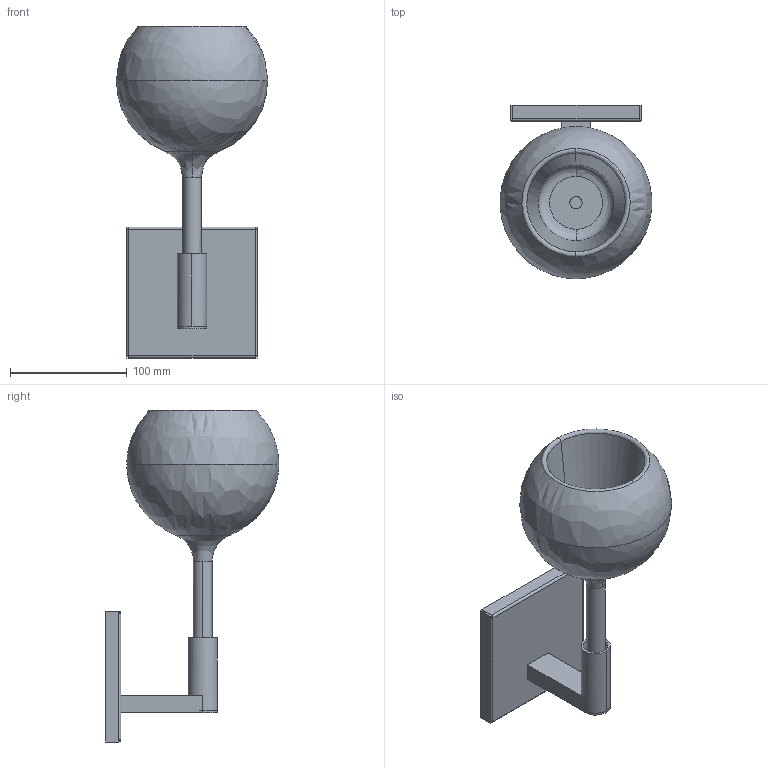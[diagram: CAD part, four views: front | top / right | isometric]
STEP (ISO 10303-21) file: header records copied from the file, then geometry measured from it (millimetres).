
FILE_DESCRIPTION(/* description */ (''),/* implementation_level */ '2;1');
FILE_NAME(/* name */ 'SEAD2D~1',/* time_stamp */ '2021-05-06T16:08:10+02:00',/* author */ (''),/* organization */ (''),/* preprocessor_version */ 'ST-DEVELOPER v16.5',/* originating_system */ '',/* authorisation */ '');
FILE_SCHEMA (('CONFIG_CONTROL_DESIGN'));
Length unit declared in the file: millimetre
Products named in the file (2): Document; MET.005777
Assembly tree (1 placements, depth 2):
  Document
    MET.005777
Bounding box: 129.65 x 148.5 x 283.85 mm (x, y, z)
Volume: 192937.4 mm3; surface area: 228312.1 mm2
Topology: 5 solids, 5 shells, 119 faces, 286 edges, 172 vertices
Faces by surface type: plane 70, cylinder 29, bspline 20
Entity records: 4249 total; most frequent: CARTESIAN_POINT 2204, ORIENTED_EDGE 556, EDGE_CURVE 278, VERTEX_POINT 172, B_SPLINE_CURVE_WITH_KNOTS 166, EDGE_LOOP 130, ADVANCED_FACE 119, FACE_OUTER_BOUND 119
